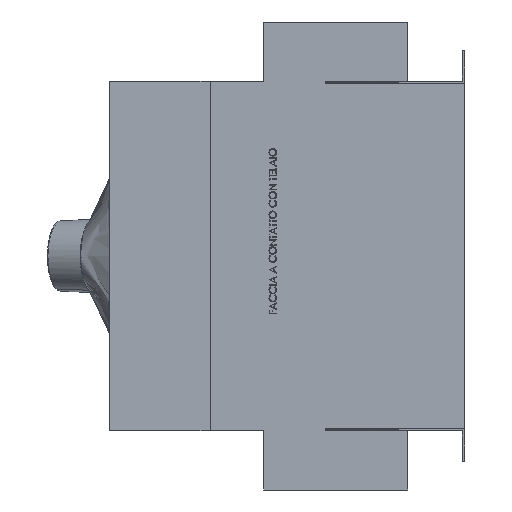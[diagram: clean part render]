
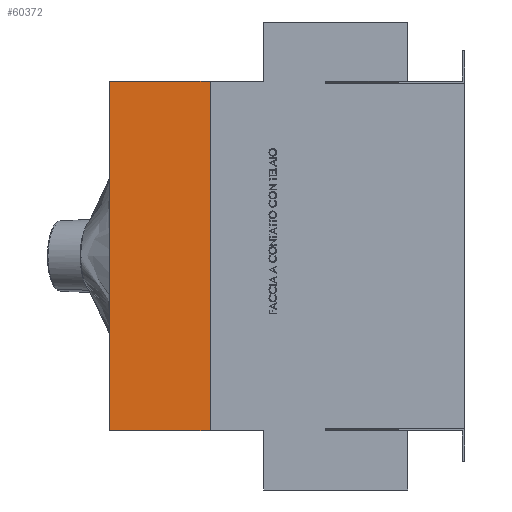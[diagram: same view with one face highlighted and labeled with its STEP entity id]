
A CAD part, left-side view. The second image highlights one B-rep face of the part: STEP entity #60372.
In plain terms, the highlighted planar face has unit normal (-1, 0, 0).
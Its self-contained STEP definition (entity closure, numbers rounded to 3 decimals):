
#23 = EDGE_LOOP ( 'NONE', ( #22883, #1573, #51127, #41626 ) ) ;
#1573 = ORIENTED_EDGE ( 'NONE', *, *, #34314, .T. ) ;
#7759 = CARTESIAN_POINT ( 'NONE',  ( -120.515, 176.605, -243. ) ) ;
#7836 = LINE ( 'NONE', #49862, #34368 ) ;
#9523 = VERTEX_POINT ( 'NONE', #31059 ) ;
#10002 = AXIS2_PLACEMENT_3D ( 'NONE', #35734, #23204, #57595 ) ;
#12181 = FACE_OUTER_BOUND ( 'NONE', #23, .T. ) ;
#14498 = VERTEX_POINT ( 'NONE', #15525 ) ;
#15525 = CARTESIAN_POINT ( 'NONE',  ( -120.515, 316.605, -243. ) ) ;
#18254 = PLANE ( 'NONE',  #10002 ) ;
#18391 = VECTOR ( 'NONE', #64124, 1000. ) ;
#19688 = DIRECTION ( 'NONE',  ( 0., -1., 0. ) ) ;
#20122 = CARTESIAN_POINT ( 'NONE',  ( -120.515, 316.605, 1134.067 ) ) ;
#22883 = ORIENTED_EDGE ( 'NONE', *, *, #37645, .F. ) ;
#23204 = DIRECTION ( 'NONE',  ( 1., 0., 0. ) ) ;
#25342 = DIRECTION ( 'NONE',  ( 0., 0., -1. ) ) ;
#31059 = CARTESIAN_POINT ( 'NONE',  ( -120.515, 316.605, 243. ) ) ;
#33809 = LINE ( 'NONE', #54828, #46961 ) ;
#34314 = EDGE_CURVE ( 'NONE', #9523, #14498, #36124, .T. ) ;
#34368 = VECTOR ( 'NONE', #19688, 1000. ) ;
#35734 = CARTESIAN_POINT ( 'NONE',  ( -120.515, 316.605, 1134.067 ) ) ;
#36124 = LINE ( 'NONE', #20122, #18391 ) ;
#37645 = EDGE_CURVE ( 'NONE', #9523, #47627, #7836, .T. ) ;
#38139 = CARTESIAN_POINT ( 'NONE',  ( -120.515, 316.605, -243. ) ) ;
#41626 = ORIENTED_EDGE ( 'NONE', *, *, #61894, .F. ) ;
#43084 = DIRECTION ( 'NONE',  ( 0., 1., 0. ) ) ;
#46961 = VECTOR ( 'NONE', #25342, 1000. ) ;
#47495 = LINE ( 'NONE', #38139, #49026 ) ;
#47627 = VERTEX_POINT ( 'NONE', #47684 ) ;
#47684 = CARTESIAN_POINT ( 'NONE',  ( -120.515, 176.605, 243. ) ) ;
#49026 = VECTOR ( 'NONE', #43084, 1000. ) ;
#49862 = CARTESIAN_POINT ( 'NONE',  ( -120.515, 316.605, 243. ) ) ;
#51127 = ORIENTED_EDGE ( 'NONE', *, *, #54823, .F. ) ;
#54823 = EDGE_CURVE ( 'NONE', #62067, #14498, #47495, .T. ) ;
#54828 = CARTESIAN_POINT ( 'NONE',  ( -120.515, 176.605, 1134.067 ) ) ;
#57595 = DIRECTION ( 'NONE',  ( 0., 0., -1. ) ) ;
#60372 = ADVANCED_FACE ( 'NONE', ( #12181 ), #18254, .F. ) ;
#61894 = EDGE_CURVE ( 'NONE', #47627, #62067, #33809, .T. ) ;
#62067 = VERTEX_POINT ( 'NONE', #7759 ) ;
#64124 = DIRECTION ( 'NONE',  ( 0., 0., -1. ) ) ;
